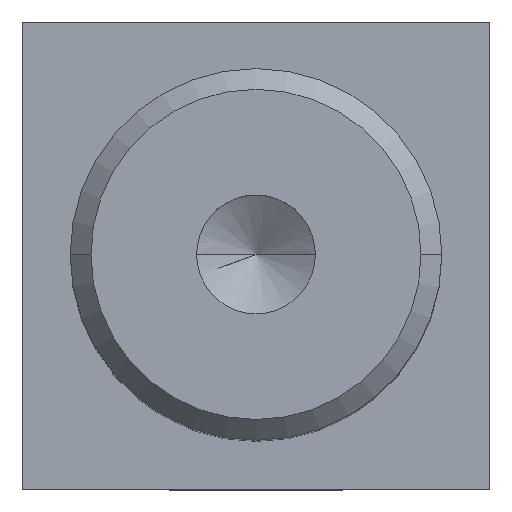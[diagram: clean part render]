
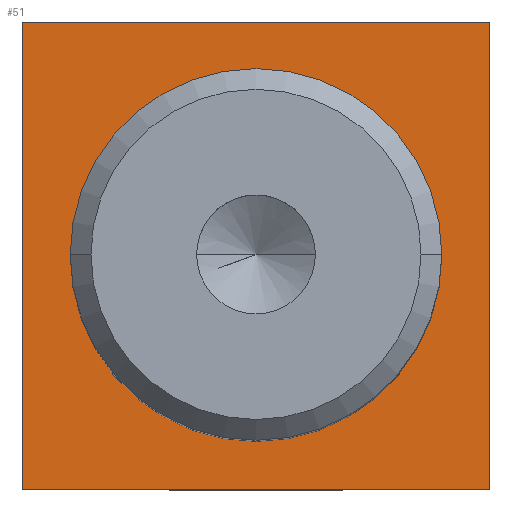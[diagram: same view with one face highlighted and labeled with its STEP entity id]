
A CAD part, top view. The second image highlights one B-rep face of the part: STEP entity #51.
In plain terms, the highlighted planar face has unit normal (0, 0, 1).
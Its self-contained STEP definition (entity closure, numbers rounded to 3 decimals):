
#7 = VERTEX_POINT ( 'NONE', #146 ) ;
#9 = EDGE_CURVE ( 'NONE', #10, #7, #145, .T. ) ;
#10 = VERTEX_POINT ( 'NONE', #141 ) ;
#51 = ADVANCED_FACE ( 'NONE', ( #217, #216 ), #215, .T. ) ;
#52 = EDGE_LOOP ( 'NONE', ( #109, #110, #111, #112 ) ) ;
#62 = EDGE_CURVE ( 'NONE', #72, #10, #207, .T. ) ;
#72 = VERTEX_POINT ( 'NONE', #255 ) ;
#74 = EDGE_CURVE ( 'NONE', #79, #72, #254, .T. ) ;
#79 = VERTEX_POINT ( 'NONE', #244 ) ;
#81 = EDGE_CURVE ( 'NONE', #7, #79, #243, .T. ) ;
#109 = ORIENTED_EDGE ( 'NONE', *, *, #74, .T. ) ;
#110 = ORIENTED_EDGE ( 'NONE', *, *, #62, .T. ) ;
#111 = ORIENTED_EDGE ( 'NONE', *, *, #9, .T. ) ;
#112 = ORIENTED_EDGE ( 'NONE', *, *, #81, .T. ) ;
#113 = EDGE_LOOP ( 'NONE', ( #114, #115 ) ) ;
#114 = ORIENTED_EDGE ( 'NONE', *, *, #5452, .F. ) ;
#115 = ORIENTED_EDGE ( 'NONE', *, *, #116, .F. ) ;
#116 = EDGE_CURVE ( 'NONE', #5454, #5453, #281, .T. ) ;
#141 = CARTESIAN_POINT ( 'NONE',  ( 22.5, -22.5, 43.5 ) ) ;
#142 = DIRECTION ( 'NONE',  ( 0., 1., 0. ) ) ;
#143 = VECTOR ( 'NONE', #142, 1000. ) ;
#144 = CARTESIAN_POINT ( 'NONE',  ( 22.5, 0., 43.5 ) ) ;
#145 = LINE ( 'NONE', #144, #143 ) ;
#146 = CARTESIAN_POINT ( 'NONE',  ( 22.5, 22.5, 43.5 ) ) ;
#200 = DIRECTION ( 'NONE',  ( 1., 0., 0. ) ) ;
#201 = VECTOR ( 'NONE', #200, 1000. ) ;
#202 = CARTESIAN_POINT ( 'NONE',  ( 0., -22.5, 43.5 ) ) ;
#207 = LINE ( 'NONE', #202, #201 ) ;
#210 = DIRECTION ( 'NONE',  ( 1., 0., 0. ) ) ;
#211 = DIRECTION ( 'NONE',  ( 0., 0., 1. ) ) ;
#212 = AXIS2_PLACEMENT_3D ( 'NONE', #214, #211, #210 ) ;
#214 = CARTESIAN_POINT ( 'NONE',  ( 0., 0., 43.5 ) ) ;
#215 = PLANE ( 'NONE',  #212 ) ;
#216 = FACE_BOUND ( 'NONE', #113, .T. ) ;
#217 = FACE_OUTER_BOUND ( 'NONE', #52, .T. ) ;
#240 = DIRECTION ( 'NONE',  ( -1., 0., 0. ) ) ;
#241 = VECTOR ( 'NONE', #240, 1000. ) ;
#242 = CARTESIAN_POINT ( 'NONE',  ( 0., 22.5, 43.5 ) ) ;
#243 = LINE ( 'NONE', #242, #241 ) ;
#244 = CARTESIAN_POINT ( 'NONE',  ( -22.5, 22.5, 43.5 ) ) ;
#251 = DIRECTION ( 'NONE',  ( 0., -1., 0. ) ) ;
#252 = VECTOR ( 'NONE', #251, 1000. ) ;
#253 = CARTESIAN_POINT ( 'NONE',  ( -22.5, 0., 43.5 ) ) ;
#254 = LINE ( 'NONE', #253, #252 ) ;
#255 = CARTESIAN_POINT ( 'NONE',  ( -22.5, -22.5, 43.5 ) ) ;
#277 = DIRECTION ( 'NONE',  ( 1., 0., 0. ) ) ;
#278 = DIRECTION ( 'NONE',  ( 0., 0., 1. ) ) ;
#279 = CARTESIAN_POINT ( 'NONE',  ( 0., 0., 43.5 ) ) ;
#280 = AXIS2_PLACEMENT_3D ( 'NONE', #279, #278, #277 ) ;
#281 = CIRCLE ( 'NONE', #280, 17.9 ) ;
#2782 = CARTESIAN_POINT ( 'NONE',  ( -17.9, 0., 43.5 ) ) ;
#2783 = CARTESIAN_POINT ( 'NONE',  ( 17.9, 0., 43.5 ) ) ;
#2784 = DIRECTION ( 'NONE',  ( 1., 0., 0. ) ) ;
#2785 = DIRECTION ( 'NONE',  ( 0., 0., 1. ) ) ;
#2786 = CARTESIAN_POINT ( 'NONE',  ( 0., 0., 43.5 ) ) ;
#2787 = AXIS2_PLACEMENT_3D ( 'NONE', #2786, #2785, #2784 ) ;
#2793 = CIRCLE ( 'NONE', #2787, 17.9 ) ;
#5452 = EDGE_CURVE ( 'NONE', #5453, #5454, #2793, .T. ) ;
#5453 = VERTEX_POINT ( 'NONE', #2783 ) ;
#5454 = VERTEX_POINT ( 'NONE', #2782 ) ;
